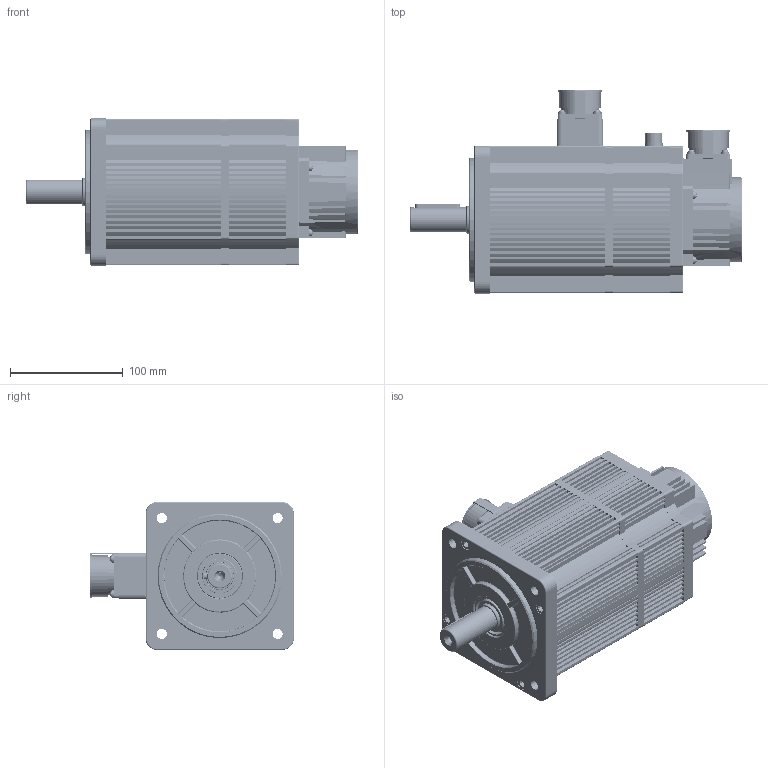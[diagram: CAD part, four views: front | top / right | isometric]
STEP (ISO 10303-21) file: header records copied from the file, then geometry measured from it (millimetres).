
FILE_DESCRIPTION (( 'STEP AP203' ), '1' );
FILE_NAME ('K1-130蚾饜6Nm 惕掅.STEP', '2019-12-23T08:12:14', ( 'gs' ), ( 'Microsoft' ), 'SwSTEP 2.0', 'SolidWorks 2019', '' );
FILE_SCHEMA (( 'CONFIG_CONTROL_DESIGN' ));
Length unit declared in the file: millimetre
Products named in the file (28): K1-130諉盄釱; K1-110晤鎢ん誘欶; K1-130粣 惕掅(6Nm); M6X20; M3X8啋儂; K1-130密封圈; K1-130蛌赽郪璃1500W 6Nm 惕掅; K1-130盄簽砎蝶菜; M4X16啋儂; K1-130誘欶躇猾菜; M6X70; K1-130瑤脣15郋; K1-130儂褲樓馱綴1500W 6Nm; curved single coil spring lock washers gb_GB_FASTENER_WASHER_CSLW 4; K1-130瑤脣 惕掅(10Nm眕奻); M3X12啋儂; K1-130隅赽郪璃1500W 6Nm; K1-130瑤脣雄薯盄; M3X8囀鞠褒; K1-130蚾饜6Nm 惕掅; K1-130す瑩; K1-130ヶ傷裔 譙跡; K1-130机壳加工后 抱闸 7.7Nm以下; M3す菜; K1-130瑤脣砎蝶菜; K1-130綴傷裔 惕掅( 7.7Nm眕狟); K1-130綴傷裔 陬諾; M6粟菜
Assembly tree (81 placements, depth 3):
  K1-130蚾饜6Nm 惕掅
    K1-130隅赽郪璃1500W 6Nm
      K1-130儂褲樓馱綴1500W 6Nm
    K1-130ヶ傷裔 譙跡
    K1-130綴傷裔 惕掅( 7.7Nm眕狟)
    K1-110晤鎢ん誘欶
    K1-130密封圈
    K1-130誘欶躇猾菜
    curved single coil spring lock washers gb_GB_FASTENER_WASHER_CSLW 4  x18
    M3X8囀鞠褒
    M3す菜  x13
    M6粟菜  x7
    M6X20  x4
    K1-130盄簽砎蝶菜  x2
    K1-130瑤脣15郋
    M3X12啋儂  x8
    K1-130す瑩
    K1-130瑤脣砎蝶菜
    K1-130諉盄釱
    M3X8啋儂  x4
    M4X16啋儂  x4
    K1-130瑤脣雄薯盄
    K1-130机壳加工后 抱闸 7.7Nm以下
    K1-130綴傷裔 陬諾
    K1-130蛌赽郪璃1500W 6Nm 惕掅
      K1-130粣 惕掅(6Nm)
    M6X70  x3
    K1-130瑤脣 惕掅(10Nm眕奻)
Bounding box: 294 x 180.1 x 131 mm (x, y, z)
Volume: 1098376.2 mm3; surface area: 540253.5 mm2
Topology: 81 solids, 83 shells, 4201 faces, 11390 edges, 7496 vertices
Faces by surface type: cylinder 2432, plane 1451, bspline 166, cone 88, torus 64
Entity records: 145981 total; most frequent: CARTESIAN_POINT 76257, ORIENTED_EDGE 14940, DIRECTION 12427, EDGE_CURVE 7470, VERTEX_POINT 4907, AXIS2_PLACEMENT_3D 4242, LINE 3943, VECTOR 3943
